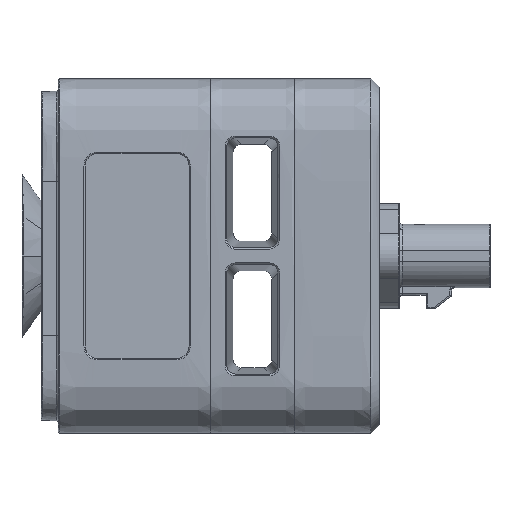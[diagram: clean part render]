
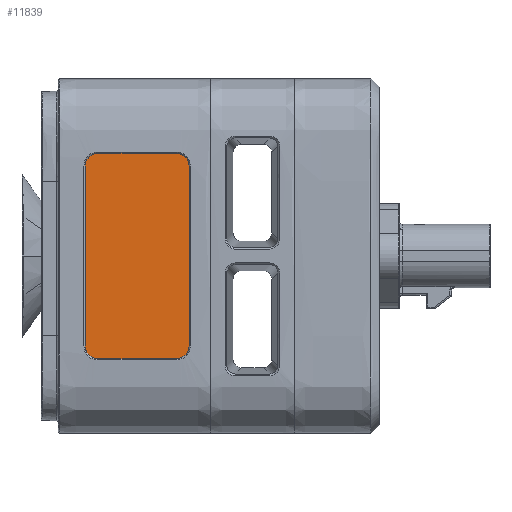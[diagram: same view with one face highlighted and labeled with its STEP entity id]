
A CAD part, left-side view. The second image highlights one B-rep face of the part: STEP entity #11839.
In plain terms, the highlighted planar face has unit normal (-1, 0, 0).
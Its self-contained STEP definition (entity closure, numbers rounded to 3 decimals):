
#2976=DIRECTION('',(0.,-1.,0.));
#2977=VECTOR('',#2976,9.3);
#2978=CARTESIAN_POINT('',(-65.168,88.7,
-49.165));
#2979=LINE('',#2978,#2977);
#3017=DIRECTION('',(0.,0.,-1.));
#3018=VECTOR('',#3017,21.3);
#3019=CARTESIAN_POINT('',(-65.168,90.2,
-26.365));
#3020=LINE('',#3019,#3018);
#3051=DIRECTION('',(0.,1.,0.));
#3052=VECTOR('',#3051,9.3);
#3053=CARTESIAN_POINT('',(-65.168,79.4,
-24.865));
#3054=LINE('',#3053,#3052);
#3099=DIRECTION('',(0.,0.,1.));
#3100=VECTOR('',#3099,21.3);
#3101=CARTESIAN_POINT('',(-65.168,77.9,
-47.665));
#3102=LINE('',#3101,#3100);
#3113=CARTESIAN_POINT('',(-65.168,79.4,
-47.665));
#3114=DIRECTION('',(1.,0.,0.));
#3115=DIRECTION('',(0.,-1.,0.));
#3116=AXIS2_PLACEMENT_3D('',#3113,#3114,#3115);
#3121=CARTESIAN_POINT('',(-65.168,88.7,
-47.665));
#3122=DIRECTION('',(1.,0.,0.));
#3123=DIRECTION('',(0.,0.,-1.));
#3124=AXIS2_PLACEMENT_3D('',#3121,#3122,#3123);
#3129=CARTESIAN_POINT('',(-65.168,88.7,
-26.365));
#3130=DIRECTION('',(1.,0.,0.));
#3131=DIRECTION('',(0.,1.,0.));
#3132=AXIS2_PLACEMENT_3D('',#3129,#3130,#3131);
#3137=CARTESIAN_POINT('',(-65.168,79.4,
-26.365));
#3138=DIRECTION('',(1.,0.,0.));
#3139=DIRECTION('',(0.,0.,1.));
#3140=AXIS2_PLACEMENT_3D('',#3137,#3138,#3139);
#3764=CARTESIAN_POINT('',(-65.168,79.4,
-49.165));
#3765=VERTEX_POINT('',#3764);
#3766=CARTESIAN_POINT('',(-65.168,77.9,
-47.665));
#3767=VERTEX_POINT('',#3766);
#3768=CARTESIAN_POINT('',(-65.168,88.7,
-49.165));
#3769=VERTEX_POINT('',#3768);
#3770=CARTESIAN_POINT('',(-65.168,90.2,
-47.665));
#3771=VERTEX_POINT('',#3770);
#3772=CARTESIAN_POINT('',(-65.168,90.2,
-26.365));
#3773=VERTEX_POINT('',#3772);
#3774=CARTESIAN_POINT('',(-65.168,88.7,
-24.865));
#3775=VERTEX_POINT('',#3774);
#3776=CARTESIAN_POINT('',(-65.168,79.4,
-24.865));
#3777=VERTEX_POINT('',#3776);
#3778=CARTESIAN_POINT('',(-65.168,77.9,
-26.365));
#3779=VERTEX_POINT('',#3778);
#11824=CARTESIAN_POINT('',(-65.168,95.4,
-58.081));
#11825=DIRECTION('',(-1.,0.,0.));
#11826=DIRECTION('',(0.,1.,0.));
#11827=AXIS2_PLACEMENT_3D('',#11824,#11825,#11826);
#11828=PLANE('',#11827);
#11829=ORIENTED_EDGE('',*,*,#11664,.T.);
#11830=ORIENTED_EDGE('',*,*,#11686,.F.);
#11831=ORIENTED_EDGE('',*,*,#11707,.T.);
#11832=ORIENTED_EDGE('',*,*,#11728,.F.);
#11833=ORIENTED_EDGE('',*,*,#11749,.T.);
#11834=ORIENTED_EDGE('',*,*,#11770,.F.);
#11835=ORIENTED_EDGE('',*,*,#11791,.T.);
#11836=ORIENTED_EDGE('',*,*,#11811,.F.);
#11837=EDGE_LOOP('',(#11829,#11830,#11831,#11832,#11833,#11834,#11835,#11836));
#11838=FACE_OUTER_BOUND('',#11837,.F.);
#11839=ADVANCED_FACE('',(#11838),#11828,.T.);
#3117=CIRCLE('',#3116,1.5);
#3125=CIRCLE('',#3124,1.5);
#3133=CIRCLE('',#3132,1.5);
#3141=CIRCLE('',#3140,1.5);
#11664=EDGE_CURVE('',#3767,#3765,#3117,.T.);
#11686=EDGE_CURVE('',#3769,#3765,#2979,.T.);
#11707=EDGE_CURVE('',#3769,#3771,#3125,.T.);
#11728=EDGE_CURVE('',#3773,#3771,#3020,.T.);
#11749=EDGE_CURVE('',#3773,#3775,#3133,.T.);
#11770=EDGE_CURVE('',#3777,#3775,#3054,.T.);
#11791=EDGE_CURVE('',#3777,#3779,#3141,.T.);
#11811=EDGE_CURVE('',#3767,#3779,#3102,.T.);
